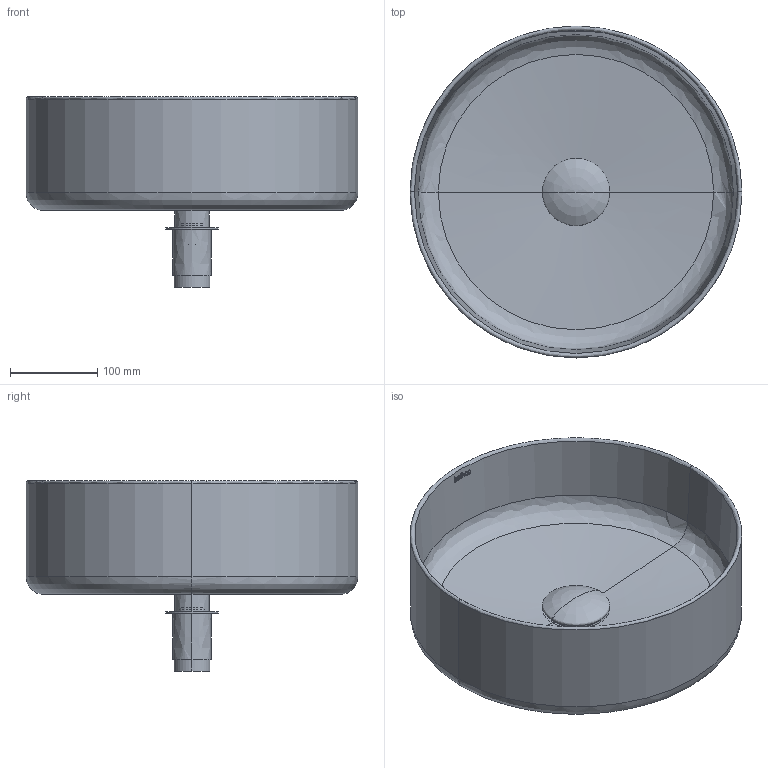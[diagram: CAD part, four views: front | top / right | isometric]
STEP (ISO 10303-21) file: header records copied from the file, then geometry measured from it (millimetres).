
FILE_DESCRIPTION(/* description */ (''),/* implementation_level */ '2;1');
FILE_NAME(/* name */ 'Bathco_New Stone Classic Washbasins Cylindrical_29092025_EXP',/* time_stamp */ '2025-09-29T10:44:02+02:00',/* author */ (''),/* organization */ (''),/* preprocessor_version */ 'ST-DEVELOPER v19.2',/* originating_system */ 'Rhino 8.23',/* authorisation */ '');
FILE_SCHEMA (('CONFIG_CONTROL_DESIGN'));
Length unit declared in the file: millimetre
Products named in the file (1): Document
Bounding box: 380 x 380 x 217.75 mm (x, y, z)
Volume: 2781797.1 mm3; surface area: 550936.4 mm2
Topology: 21 solids, 21 shells, 256 faces, 540 edges, 314 vertices
Faces by surface type: plane 111, bspline 83, cylinder 62
Entity records: 8942 total; most frequent: CARTESIAN_POINT 4174, ORIENTED_EDGE 1076, DIRECTION 628, EDGE_CURVE 538, AXIS2_PLACEMENT_3D 400, VERTEX_POINT 314, EDGE_LOOP 270, ADVANCED_FACE 256
